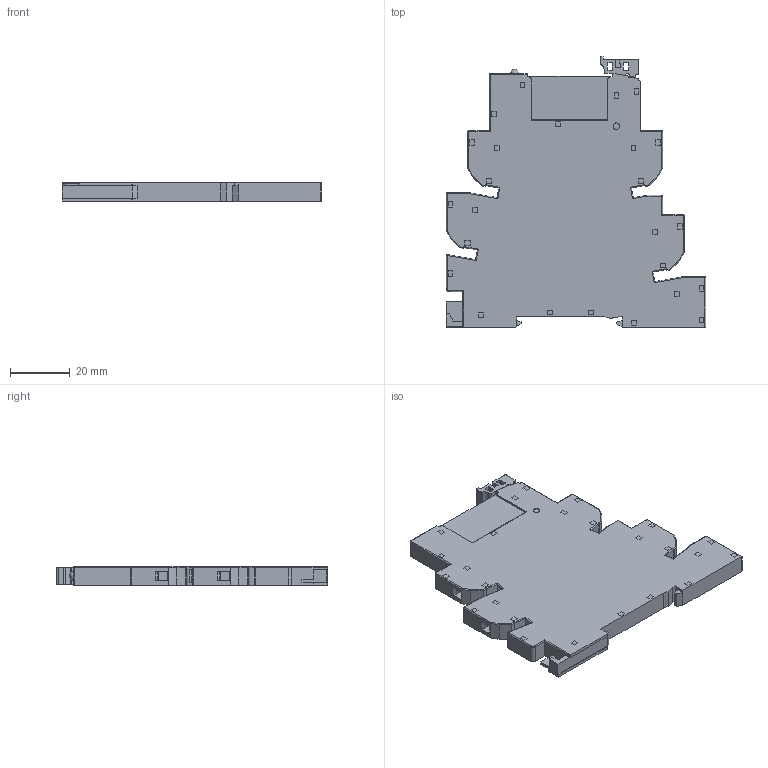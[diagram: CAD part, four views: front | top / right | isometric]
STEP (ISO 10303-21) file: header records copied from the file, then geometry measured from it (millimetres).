
FILE_DESCRIPTION(('STEP AP214'),'2;1');
FILE_NAME('3911=9361+3451.stp','2010-10-02T08:44:35',(''),(''),'2007.1.106','THINKDESIGN','');
FILE_SCHEMA(('AUTOMOTIVE_DESIGN'));
Products named in the file (1): None
Bounding box: 87 x 90.7 x 6.2 mm (x, y, z)
Surface area: 17240.5 mm2 (no closed solid volume)
Topology: 0 solids, 0 shells, 741 faces, 4308 edges, 4292 vertices
Faces by surface type: plane 582, cylinder 135, bspline 24
Full cylindrical faces by diameter (mm): 1.5 x5, 2.2 x2, 3.9 x5, 4.3 x5
Entity records: 42466 total; most frequent: CARTESIAN_POINT 10949, DIRECTION 5601, COMPOSITE_CURVE_SEGMENT 4294, TRIMMED_CURVE 3930, VECTOR 3693, LINE 3693, AXIS2_PLACEMENT_3D 954, OUTER_BOUNDARY_CURVE 741
